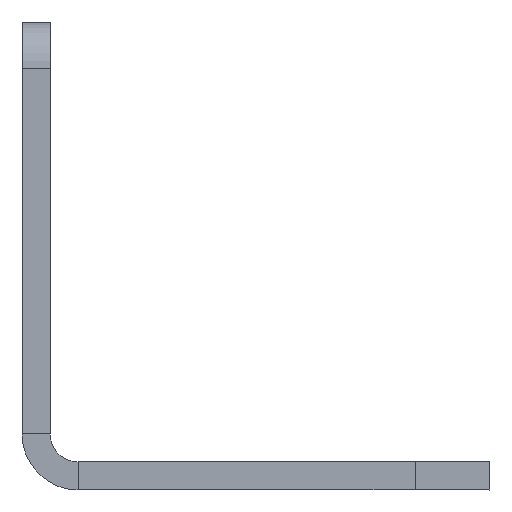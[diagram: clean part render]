
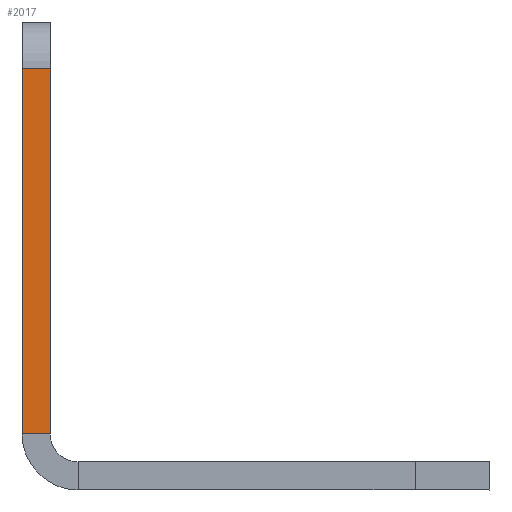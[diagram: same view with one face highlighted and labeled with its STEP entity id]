
A CAD part, front view. The second image highlights one B-rep face of the part: STEP entity #2017.
In plain terms, the highlighted planar face has unit normal (0, -1, 0).
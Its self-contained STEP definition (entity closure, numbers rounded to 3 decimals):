
#51 = EDGE_CURVE ( 'NONE', #3317, #3003, #3232, .T. ) ;
#342 = CARTESIAN_POINT ( 'NONE',  ( 3., -537., 6. ) ) ;
#379 = VECTOR ( 'NONE', #3443, 1000. ) ;
#449 = CARTESIAN_POINT ( 'NONE',  ( 0., -537., 6. ) ) ;
#513 = FACE_OUTER_BOUND ( 'NONE', #1115, .T. ) ;
#672 = CARTESIAN_POINT ( 'NONE',  ( 3., -537., 45. ) ) ;
#684 = ORIENTED_EDGE ( 'NONE', *, *, #2006, .T. ) ;
#720 = CARTESIAN_POINT ( 'NONE',  ( 3., -537., 45. ) ) ;
#730 = VECTOR ( 'NONE', #1067, 1000. ) ;
#732 = LINE ( 'NONE', #3484, #950 ) ;
#755 = EDGE_CURVE ( 'NONE', #3317, #1378, #732, .T. ) ;
#771 = ORIENTED_EDGE ( 'NONE', *, *, #51, .T. ) ;
#950 = VECTOR ( 'NONE', #1815, 1000. ) ;
#1067 = DIRECTION ( 'NONE',  ( 1., 0., 0. ) ) ;
#1115 = EDGE_LOOP ( 'NONE', ( #1797, #2461, #771, #684 ) ) ;
#1205 = LINE ( 'NONE', #672, #379 ) ;
#1323 = DIRECTION ( 'NONE',  ( 0., 0., 1. ) ) ;
#1378 = VERTEX_POINT ( 'NONE', #2851 ) ;
#1410 = DIRECTION ( 'NONE',  ( 0., 1., 0. ) ) ;
#1426 = DIRECTION ( 'NONE',  ( 0., 0., 1. ) ) ;
#1657 = PLANE ( 'NONE',  #2738 ) ;
#1797 = ORIENTED_EDGE ( 'NONE', *, *, #2175, .F. ) ;
#1815 = DIRECTION ( 'NONE',  ( 0., 0., 1. ) ) ;
#1858 = CARTESIAN_POINT ( 'NONE',  ( 3., -537., 6. ) ) ;
#1950 = LINE ( 'NONE', #342, #2045 ) ;
#2006 = EDGE_CURVE ( 'NONE', #3003, #3127, #1950, .T. ) ;
#2017 = ADVANCED_FACE ( 'NONE', ( #513 ), #1657, .F. ) ;
#2045 = VECTOR ( 'NONE', #1323, 1000. ) ;
#2175 = EDGE_CURVE ( 'NONE', #1378, #3127, #1205, .T. ) ;
#2461 = ORIENTED_EDGE ( 'NONE', *, *, #755, .F. ) ;
#2738 = AXIS2_PLACEMENT_3D ( 'NONE', #2758, #1410, #1426 ) ;
#2758 = CARTESIAN_POINT ( 'NONE',  ( 3., -537., 6. ) ) ;
#2851 = CARTESIAN_POINT ( 'NONE',  ( 0., -537., 45. ) ) ;
#3003 = VERTEX_POINT ( 'NONE', #1858 ) ;
#3127 = VERTEX_POINT ( 'NONE', #720 ) ;
#3232 = LINE ( 'NONE', #3503, #730 ) ;
#3317 = VERTEX_POINT ( 'NONE', #449 ) ;
#3443 = DIRECTION ( 'NONE',  ( 1., 0., 0. ) ) ;
#3484 = CARTESIAN_POINT ( 'NONE',  ( 0., -537., 6. ) ) ;
#3503 = CARTESIAN_POINT ( 'NONE',  ( 3., -537., 6. ) ) ;
